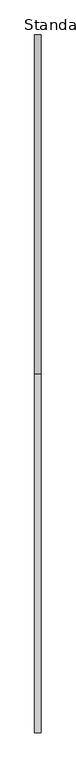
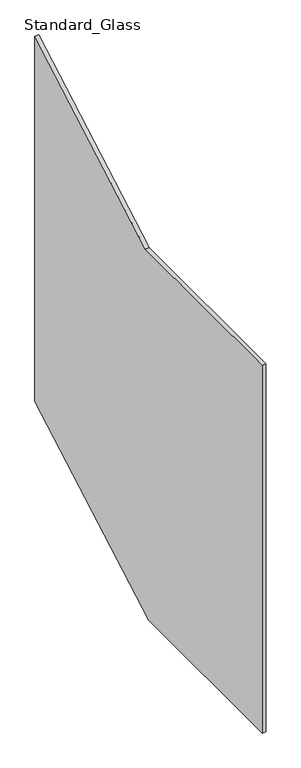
"""IFC4 building model written with IfcOpenShell, lengths in millimetres: railing geometry, Baluster-Landing-Panel-VIVA-VISIO-Upper : Standard_Glass."""

from ifc_helpers import new_model, si_unit, frame, origin, place, context, project, spatial, polyline, outline, extrude, source, transform, mapped, element, save


def standard_glass_06dc4d49(model_context):
    return source(origin(), model_context, "Body", "SweptSolid", [
        extrude(outline(polyline([(-492.404401, 1086.485), (0.0, 1367.8032978), (0.0, 374.396), (-507.1410704, 84.6584136), (-1012.825, 84.6584136), (-1012.825, 1086.485), (-492.404401, 1086.485)])), frame((31.6077292, 0.0, 0.0), z_axis=(1.0, 0.0, 0.0), x_axis=(0.0, 1.0, 0.0)), (0.0, 0.0, 1.0), 9.525),
    ])


if __name__ == "__main__":
    model = new_model("IFC4")
    model_context = context("Model", 3, world=origin())
    ifc_project = project(units=[si_unit("LENGTHUNIT", "METRE", prefix="MILLI")], contexts=[model_context])
    site = spatial("IfcSite", under=ifc_project)
    building = spatial("IfcBuilding", under=site)
    placement = place(None, origin())
    standard_glass_shape = standard_glass_06dc4d49(model_context)
    element("IfcRailing", 1, ObjectType="Baluster-Landing-Panel-VIVA-VISIO-Upper : Standard_Glass", at=placement, inside=building, context=model_context, shape_type="MappedRepresentation", body=[
        mapped(standard_glass_shape, transform((0.0, 0.0, 0.0), x_axis=(1.0, 0.0, 0.0), y_axis=(0.0, 1.0, 0.0), z_axis=(0.0, 0.0, 1.0))),
    ])
    save(model, "model.ifc")
